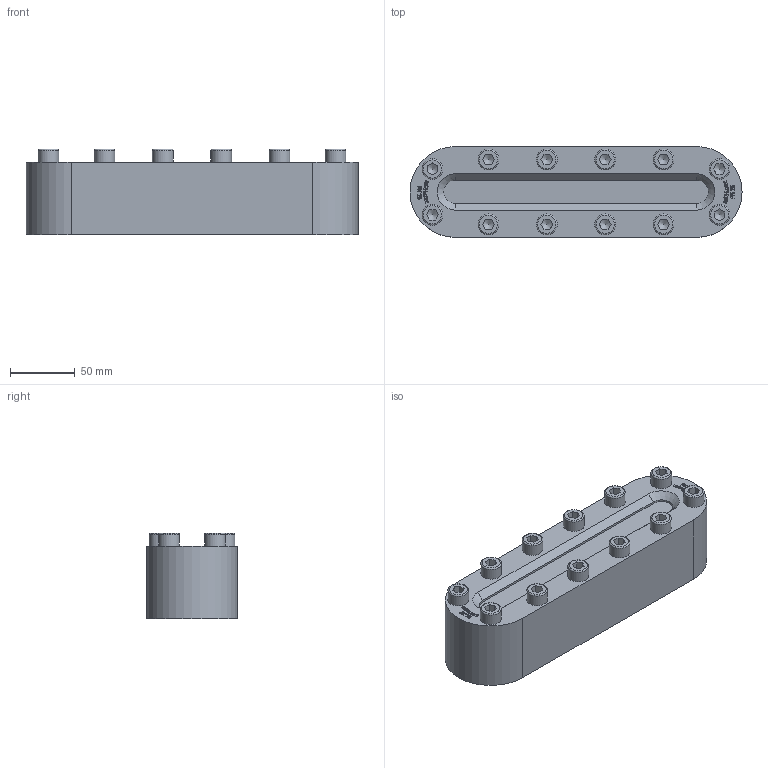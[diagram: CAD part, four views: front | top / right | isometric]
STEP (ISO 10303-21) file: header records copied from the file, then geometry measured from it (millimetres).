
FILE_DESCRIPTION(/* description */ (''),/* implementation_level */ '2;1');
FILE_NAME(/* name */ 'W:\Konstruktion_ACI\337\STEP\ACI-337-256-25.stp',/* time_stamp */ '2022-03-21T17:13:27+01:00',/* author */ ('Travnicek'),/* organization */ ('ACI Industriearmaturen'),/* preprocessor_version */ 'ST-DEVELOPER v16.1',/* originating_system */ 'Autodesk Inventor 2016',/* authorisation */ '');
FILE_SCHEMA (('AUTOMOTIVE_DESIGN { 1 0 10303 214 3 1 1 }'));
Length unit declared in the file: centimetre
Products named in the file (1): 337
Bounding box: 256 x 70 x 65.9 mm (x, y, z)
Volume: 862113.4 mm3; surface area: 84973.3 mm2
Topology: 1 solids, 1 shells, 560 faces, 1496 edges, 988 vertices
Faces by surface type: plane 310, bspline 206, cylinder 18, cone 14, torus 12
Full cylindrical faces by diameter (mm): 16 x12
Entity records: 18551 total; most frequent: CARTESIAN_POINT 5807, ORIENTED_EDGE 2896, DIRECTION 1724, EDGE_CURVE 1448, VERTEX_POINT 976, LINE 914, VECTOR 914, EDGE_LOOP 646
